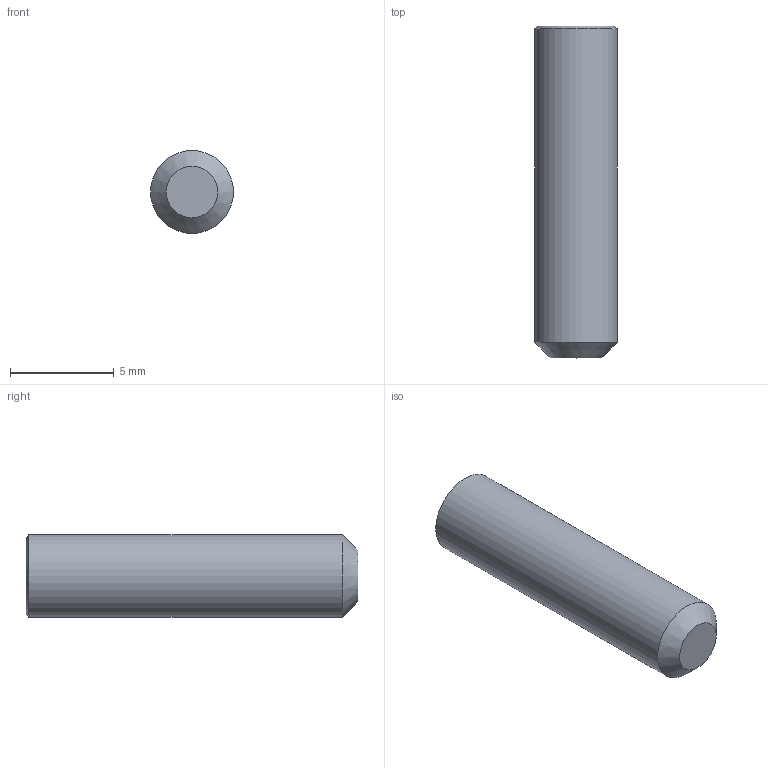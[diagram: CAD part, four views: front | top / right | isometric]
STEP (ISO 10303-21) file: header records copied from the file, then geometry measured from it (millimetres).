
FILE_DESCRIPTION(/* description */ (''),/* implementation_level */ '2;1');
FILE_NAME(/* name */ 'C:\Users\D\Documents\Inventor\各種小物\JIS\止めねじ\平先\M4\M4x16.stp',/* time_stamp */ '2022-06-23T14:24:11+09:00',/* author */ ('D'),/* organization */ (''),/* preprocessor_version */ 'ST-DEVELOPER v18',/* originating_system */ 'Autodesk Inventor 2020',/* authorisation */ '');
FILE_SCHEMA (('AUTOMOTIVE_DESIGN { 1 0 10303 214 3 1 1 }'));
Length unit declared in the file: millimetre
Products named in the file (1): M1.6x2
Bounding box: 4 x 16 x 4 mm (x, y, z)
Volume: 188.2 mm3; surface area: 237 mm2
Topology: 1 solids, 1 shells, 12 faces, 28 edges, 18 vertices
Faces by surface type: plane 8, cone 3, cylinder 1
Full cylindrical faces by diameter (mm): 4 x1
Entity records: 369 total; most frequent: CARTESIAN_POINT 72, ORIENTED_EDGE 54, DIRECTION 50, EDGE_CURVE 27, VERTEX_POINT 18, AXIS2_PLACEMENT_3D 17, LINE 16, VECTOR 16
